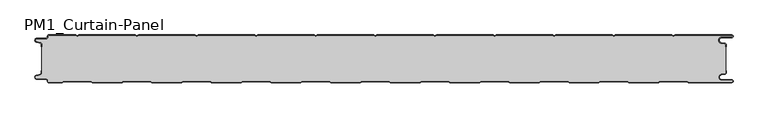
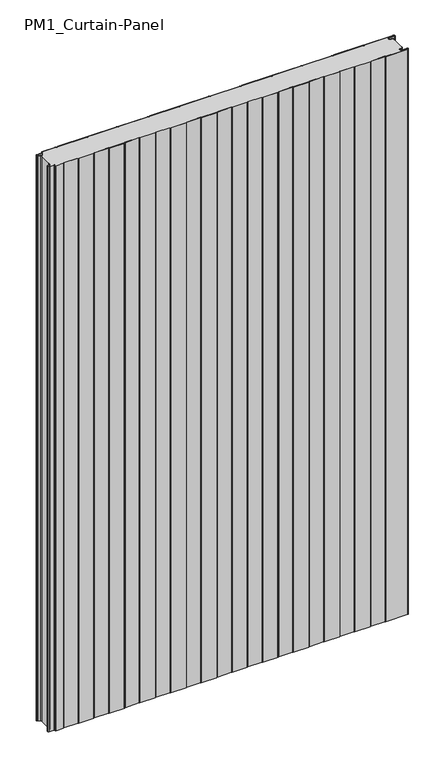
"""IFC4 building model written with IfcOpenShell, lengths in millimetres: plate geometry, PM1_Curtain-Panel : ACH_PM1_Stone-wool-Panel_80M."""

from ifc_helpers import new_model, si_unit, point, frame_2d, origin, origin_with_axes, place, context, project, spatial, polyline, circle_curve, trimmed, segment, composite_curve, outline, extrude, source, transform, mapped, element, save


def pm1_curtain_panel_8cfa1c77(model_context):
    return source(origin(), model_context, "Body", "SweptSolid", [
        extrude(outline(composite_curve([segment(trimmed(circle_curve(frame_2d((-577.0, -15.878557)), 2.0), [point((-575.0, -15.878557))], [point((-576.5500978, -13.9298169))], True, "CARTESIAN"), True, "CONTINUOUS"), segment(polyline([(-576.5500978, -13.9298169), (-582.7098239, -12.507732)]), True, "CONTINUOUS"), segment(trimmed(circle_curve(frame_2d((-581.9, -9.0)), 3.6), [point((-582.7098239, -12.507732))], [point((-581.9, -5.4))], False, "CARTESIAN"), True, "CONTINUOUS"), segment(polyline([(-581.9, -5.4), (-566.4, -5.4)]), True, "CONTINUOUS"), segment(trimmed(circle_curve(frame_2d((-566.4, -3.4)), 2.0), [point((-566.4, -5.4))], [point((-564.4, -3.4))], True, "CARTESIAN"), True, "CONTINUOUS"), segment(polyline([(-564.4, -3.4), (-564.4, -2.0)]), True, "CONTINUOUS"), segment(trimmed(circle_curve(frame_2d((-562.4, -2.0)), 2.0), [point((-564.4, -2.0))], [point((-562.4, 0.0))], False, "CARTESIAN"), True, "CONTINUOUS"), segment(polyline([(-562.4, 0.0), (-517.0999995, 0.0), (-514.4, -1.5588455), (-511.7000005, 0.0), (-417.0999995, 0.0), (-414.4, -1.5588455), (-411.7000005, 0.0), (-317.0999995, 0.0), (-314.4, -1.5588455), (-311.7000005, 0.0), (-217.0999995, 0.0), (-214.4, -1.5588455), (-211.7000005, 0.0), (-117.0999995, 0.0), (-114.4, -1.5588455), (-111.7000005, 0.0), (-17.0999995, 0.0), (-14.4, -1.5588455), (-11.7000005, 0.0), (82.9000005, 0.0), (85.6, -1.5588455), (88.2999995, 0.0), (182.9000005, 0.0), (185.6, -1.5588455), (188.2999995, 0.0), (282.9000005, 0.0), (285.6, -1.5588455), (288.2999995, 0.0), (382.9000005, 0.0), (385.6, -1.5588455), (388.2999995, 0.0), (482.9000005, 0.0), (485.6, -1.5588455), (488.2999995, 0.0), (583.1, 0.0)]), True, "CONTINUOUS"), segment(trimmed(circle_curve(frame_2d((583.1, -2.5)), 2.5), [point((583.1, 0.0))], [point((583.1, -5.0))], False, "CARTESIAN"), True, "CONTINUOUS"), segment(polyline([(583.1, -5.0), (566.1, -5.0)]), True, "CONTINUOUS"), segment(trimmed(circle_curve(frame_2d((566.1, -9.0)), 4.0), [point((566.1, -5.0))], [point((565.405407, -12.939231))], True, "CARTESIAN"), True, "CONTINUOUS"), segment(polyline([(565.405407, -12.939231), (571.8514855, -14.0758491)]), True, "CONTINUOUS"), segment(trimmed(circle_curve(frame_2d((571.4, -16.6363492)), 2.6), [point((571.8514855, -14.0758491))], [point((574.0, -16.6363492))], False, "CARTESIAN"), True, "CONTINUOUS"), segment(polyline([(574.0, -16.6363492), (574.0, -20.0), (573.2, -20.0), (573.2, -16.6363492)]), True, "CONTINUOUS"), segment(trimmed(circle_curve(frame_2d((571.4, -16.6363492)), 1.8), [point((573.2, -16.6363492))], [point((571.7125669, -14.8636953))], True, "CARTESIAN"), True, "CONTINUOUS"), segment(polyline([(571.7125669, -14.8636953), (565.2664884, -13.7270772)]), True, "CONTINUOUS"), segment(trimmed(circle_curve(frame_2d((566.1, -9.0)), 4.8), [point((565.2664884, -13.7270772))], [point((566.1, -4.2))], False, "CARTESIAN"), True, "CONTINUOUS"), segment(polyline([(566.1, -4.2), (583.1, -4.2)]), True, "CONTINUOUS"), segment(trimmed(circle_curve(frame_2d((583.1, -2.5)), 1.7), [point((583.1, -4.2))], [point((583.1, -0.8))], True, "CARTESIAN"), True, "CONTINUOUS"), segment(polyline([(583.1, -0.8), (488.5143588, -0.8), (485.6, -2.482606), (482.6856412, -0.8), (388.5143588, -0.8), (385.6, -2.482606), (382.6856412, -0.8), (288.5143588, -0.8), (285.6, -2.482606), (282.6856412, -0.8), (188.5143588, -0.8), (185.6, -2.482606), (182.6856412, -0.8), (88.5143588, -0.8), (85.6, -2.482606), (82.6856412, -0.8), (-11.4856412, -0.8), (-14.4, -2.482606), (-17.3143588, -0.8), (-111.4856412, -0.8), (-114.4, -2.482606), (-117.3143588, -0.8), (-211.4856412, -0.8), (-214.4, -2.482606), (-217.3143588, -0.8), (-311.4856412, -0.8), (-314.4, -2.482606), (-317.3143588, -0.8), (-411.4856412, -0.8), (-414.4, -2.482606), (-417.3143588, -0.8), (-511.4856412, -0.8), (-514.4, -2.482606), (-517.3143588, -0.8), (-562.4, -0.8)]), True, "CONTINUOUS"), segment(trimmed(circle_curve(frame_2d((-562.4, -2.0)), 1.2), [point((-562.4, -0.8))], [point((-563.6, -2.0))], True, "CARTESIAN"), True, "CONTINUOUS"), segment(polyline([(-563.6, -2.0), (-563.6, -3.4)]), True, "CONTINUOUS"), segment(trimmed(circle_curve(frame_2d((-566.4, -3.4)), 2.8), [point((-563.6, -3.4))], [point((-566.4, -6.2))], False, "CARTESIAN"), True, "CONTINUOUS"), segment(polyline([(-566.4, -6.2), (-581.9, -6.2)]), True, "CONTINUOUS"), segment(trimmed(circle_curve(frame_2d((-581.9, -9.0)), 2.8), [point((-581.9, -6.2))], [point((-582.529863, -11.7282362))], True, "CARTESIAN"), True, "CONTINUOUS"), segment(polyline([(-582.529863, -11.7282362), (-576.370137, -13.150321)]), True, "CONTINUOUS"), segment(trimmed(circle_curve(frame_2d((-577.0, -15.878557)), 2.8), [point((-576.370137, -13.150321))], [point((-574.2, -15.878557))], False, "CARTESIAN"), True, "CONTINUOUS"), segment(polyline([(-574.2, -15.878557), (-574.2, -20.0), (-575.0, -20.0), (-575.0, -15.878557)]), True, "CONTINUOUS")], self_intersect=False)), origin_with_axes(), (0.0, 0.0, 1.0), 1945.7507136),
        extrude(outline(composite_curve([segment(polyline([(-574.2, -64.121443), (-574.2, -15.8785573)]), True, "CONTINUOUS"), segment(trimmed(circle_curve(frame_2d((-577.0, -15.8785573)), 2.8), [point((-574.2, -15.8785573))], [point((-576.370137, -13.1503212))], True, "CARTESIAN"), True, "CONTINUOUS"), segment(polyline([(-576.370137, -13.1503212), (-582.5298631, -11.7282362)]), True, "CONTINUOUS"), segment(trimmed(circle_curve(frame_2d((-581.9, -9.0)), 2.8), [point((-582.5298631, -11.7282362))], [point((-581.9, -6.2))], False, "CARTESIAN"), True, "CONTINUOUS"), segment(polyline([(-581.9, -6.2), (-566.4000001, -6.2)]), True, "CONTINUOUS"), segment(trimmed(circle_curve(frame_2d((-566.4000001, -3.4)), 2.8), [point((-566.4000001, -6.2))], [point((-563.6000001, -3.4))], True, "CARTESIAN"), True, "CONTINUOUS"), segment(polyline([(-563.6000001, -3.4), (-563.6000001, -2.0)]), True, "CONTINUOUS"), segment(trimmed(circle_curve(frame_2d((-562.4000001, -2.0)), 1.2), [point((-563.6000001, -2.0))], [point((-562.4000001, -0.8))], False, "CARTESIAN"), True, "CONTINUOUS"), segment(polyline([(-562.4000001, -0.8), (-517.3143589, -0.8), (-514.4000001, -2.482606), (-511.4856412, -0.8), (-417.3143589, -0.8), (-414.4000001, -2.482606), (-411.4856412, -0.8), (-317.3143589, -0.8), (-314.4000001, -2.482606), (-311.4856412, -0.8), (-217.3143589, -0.8), (-214.4000001, -2.482606), (-211.4856412, -0.8), (-117.3143589, -0.8), (-114.4000001, -2.482606), (-111.4856412, -0.8), (-17.3143589, -0.8), (-14.4000001, -2.482606), (-11.4856412, -0.8), (82.6856411, -0.8), (85.5999999, -2.482606), (88.5143588, -0.8), (182.6856411, -0.8), (185.5999999, -2.482606), (188.5143588, -0.8), (282.6856411, -0.8), (285.5999999, -2.482606), (288.5143588, -0.8), (382.6856411, -0.8), (385.5999999, -2.482606), (388.5143588, -0.8), (482.6856411, -0.8), (485.6, -2.482606), (488.5143588, -0.8), (583.1, -0.8)]), True, "CONTINUOUS"), segment(trimmed(circle_curve(frame_2d((583.1, -2.5)), 1.7), [point((583.1, -0.8))], [point((583.1, -4.2))], False, "CARTESIAN"), True, "CONTINUOUS"), segment(polyline([(583.1, -4.2), (566.1, -4.2)]), True, "CONTINUOUS"), segment(trimmed(circle_curve(frame_2d((566.1, -9.0)), 4.8), [point((566.1, -4.2))], [point((565.2664883, -13.7270771))], True, "CARTESIAN"), True, "CONTINUOUS"), segment(polyline([(565.2664883, -13.7270771), (571.7125668, -14.8636953)]), True, "CONTINUOUS"), segment(trimmed(circle_curve(frame_2d((571.4, -16.6363492)), 1.8), [point((571.7125668, -14.8636953))], [point((573.2, -16.6363492))], False, "CARTESIAN"), True, "CONTINUOUS"), segment(polyline([(573.2, -16.6363492), (573.2, -63.363652)]), True, "CONTINUOUS"), segment(trimmed(circle_curve(frame_2d((571.4, -63.363652)), 1.8), [point((573.2, -63.363652))], [point((571.7125666, -65.1363059))], False, "CARTESIAN"), True, "CONTINUOUS"), segment(polyline([(571.7125666, -65.1363059), (565.266489, -66.272923)]), True, "CONTINUOUS"), segment(trimmed(circle_curve(frame_2d((566.1, -71.0000002)), 4.7999999), [point((565.266489, -66.272923))], [point((566.1, -75.8000001))], True, "CARTESIAN"), True, "CONTINUOUS"), segment(polyline([(566.1, -75.8000001), (583.1, -75.8000001)]), True, "CONTINUOUS"), segment(trimmed(circle_curve(frame_2d((583.1, -77.5)), 1.7), [point((583.1, -75.8000001))], [point((583.1, -79.2))], False, "CARTESIAN"), True, "CONTINUOUS"), segment(polyline([(583.1, -79.2), (510.8105122, -79.2), (508.2124346, -77.7), (462.9837184, -77.7), (460.3856408, -79.2), (410.8105122, -79.2), (408.2124346, -77.7), (362.9837184, -77.7), (360.3856408, -79.2), (310.8105122, -79.2), (308.2124346, -77.7), (262.9837184, -77.7), (260.3856408, -79.2), (210.8105122, -79.2), (208.2124346, -77.7), (162.9837184, -77.7), (160.3856408, -79.2), (110.8105122, -79.2), (108.2124346, -77.7), (62.9837184, -77.7), (60.3856408, -79.2), (10.8105122, -79.2), (8.2124346, -77.7), (-37.0162816, -77.7), (-39.6143592, -79.2), (-89.1894878, -79.2), (-91.7875654, -77.7), (-137.0162816, -77.7), (-139.6143592, -79.2), (-189.1894878, -79.2), (-191.7875654, -77.7), (-237.0162816, -77.7), (-239.6143592, -79.2), (-289.1894878, -79.2), (-291.7875654, -77.7), (-337.0162816, -77.7), (-339.6143592, -79.2), (-389.1894878, -79.2), (-391.7875654, -77.7), (-437.0162816, -77.7), (-439.6143592, -79.2), (-489.1894878, -79.2), (-491.7875654, -77.7), (-537.0162816, -77.7), (-539.6143592, -79.2), (-562.4, -79.2)]), True, "CONTINUOUS"), segment(trimmed(circle_curve(frame_2d((-562.4, -78.0)), 1.2), [point((-562.4, -79.2))], [point((-563.6, -78.0))], False, "CARTESIAN"), True, "CONTINUOUS"), segment(polyline([(-563.6, -78.0), (-563.6, -76.5999998)]), True, "CONTINUOUS"), segment(trimmed(circle_curve(frame_2d((-566.4, -76.5999998)), 2.8), [point((-563.6, -76.5999998))], [point((-566.4, -73.7999998))], True, "CARTESIAN"), True, "CONTINUOUS"), segment(polyline([(-566.4, -73.7999998), (-581.9, -73.7999998)]), True, "CONTINUOUS"), segment(trimmed(circle_curve(frame_2d((-581.9, -71.0)), 2.7999998), [point((-581.9, -73.7999998))], [point((-582.529863, -68.271764))], False, "CARTESIAN"), True, "CONTINUOUS"), segment(polyline([(-582.529863, -68.271764), (-576.370137, -66.8496792)]), True, "CONTINUOUS"), segment(trimmed(circle_curve(frame_2d((-577.0, -64.121443)), 2.8), [point((-576.370137, -66.8496792))], [point((-574.2, -64.121443))], True, "CARTESIAN"), True, "CONTINUOUS")], self_intersect=False)), origin_with_axes(), (0.0, 0.0, 1.0), 1945.7507136),
        extrude(outline(composite_curve([segment(trimmed(circle_curve(frame_2d((-562.4, -78.0)), 2.0), [point((-562.4, -80.0))], [point((-564.4, -78.0))], False, "CARTESIAN"), True, "CONTINUOUS"), segment(polyline([(-564.4, -78.0), (-564.4, -76.6)]), True, "CONTINUOUS"), segment(trimmed(circle_curve(frame_2d((-566.4, -76.6)), 2.0), [point((-564.4, -76.6))], [point((-566.4, -74.6))], True, "CARTESIAN"), True, "CONTINUOUS"), segment(polyline([(-566.4, -74.6), (-581.9, -74.6)]), True, "CONTINUOUS"), segment(trimmed(circle_curve(frame_2d((-581.9, -71.0)), 3.6), [point((-581.9, -74.6))], [point((-582.7098239, -67.4922678))], False, "CARTESIAN"), True, "CONTINUOUS"), segment(polyline([(-582.7098239, -67.4922678), (-576.5500979, -66.070183)]), True, "CONTINUOUS"), segment(trimmed(circle_curve(frame_2d((-577.0, -64.121443)), 2.0), [point((-576.5500979, -66.070183))], [point((-575.0, -64.121443))], True, "CARTESIAN"), True, "CONTINUOUS"), segment(polyline([(-575.0, -64.121443), (-575.0, -60.0), (-574.2, -60.0), (-574.2, -64.121443)]), True, "CONTINUOUS"), segment(trimmed(circle_curve(frame_2d((-577.0, -64.121443)), 2.8), [point((-574.2, -64.121443))], [point((-576.370137, -66.8496792))], False, "CARTESIAN"), True, "CONTINUOUS"), segment(polyline([(-576.370137, -66.8496792), (-582.529863, -68.271764)]), True, "CONTINUOUS"), segment(trimmed(circle_curve(frame_2d((-581.9, -71.0)), 2.8), [point((-582.529863, -68.271764))], [point((-581.9, -73.8))], True, "CARTESIAN"), True, "CONTINUOUS"), segment(polyline([(-581.9, -73.8), (-566.4, -73.8)]), True, "CONTINUOUS"), segment(trimmed(circle_curve(frame_2d((-566.4, -76.6)), 2.8), [point((-566.4, -73.8))], [point((-563.6, -76.6))], False, "CARTESIAN"), True, "CONTINUOUS"), segment(polyline([(-563.6, -76.6), (-563.6, -78.0)]), True, "CONTINUOUS"), segment(trimmed(circle_curve(frame_2d((-562.4, -78.0)), 1.2), [point((-563.6, -78.0))], [point((-562.4, -79.2))], True, "CARTESIAN"), True, "CONTINUOUS"), segment(polyline([(-562.4, -79.2), (-539.6143592, -79.2), (-537.0162816, -77.7), (-491.7875654, -77.7), (-489.1894878, -79.2), (-439.6143592, -79.2), (-437.0162816, -77.7), (-391.7875654, -77.7), (-389.1894878, -79.2), (-339.6143592, -79.2), (-337.0162816, -77.7), (-291.7875654, -77.7), (-289.1894878, -79.2), (-239.6143592, -79.2), (-237.0162816, -77.7), (-191.7875654, -77.7), (-189.1894878, -79.2), (-139.6143592, -79.2), (-137.0162816, -77.7), (-91.7875654, -77.7), (-89.1894878, -79.2), (-39.6143592, -79.2), (-37.0162816, -77.7), (8.2124346, -77.7), (10.8105122, -79.2), (60.3856408, -79.2), (62.9837184, -77.7), (108.2124346, -77.7), (110.8105122, -79.2), (160.3856408, -79.2), (162.9837184, -77.7), (208.2124346, -77.7), (210.8105122, -79.2), (260.3856408, -79.2), (262.9837184, -77.7), (308.2124346, -77.7), (310.8105122, -79.2), (360.3856408, -79.2), (362.9837184, -77.7), (408.2124346, -77.7), (410.8105122, -79.2), (460.3856408, -79.2), (462.9837184, -77.7), (508.2124346, -77.7), (510.8105122, -79.2), (583.1, -79.2)]), True, "CONTINUOUS"), segment(trimmed(circle_curve(frame_2d((583.1, -77.5)), 1.7), [point((583.1, -79.2))], [point((583.1, -75.8))], True, "CARTESIAN"), True, "CONTINUOUS"), segment(polyline([(583.1, -75.8), (566.1, -75.8)]), True, "CONTINUOUS"), segment(trimmed(circle_curve(frame_2d((566.1, -71.0)), 4.8), [point((566.1, -75.8))], [point((565.266489, -66.2729227))], False, "CARTESIAN"), True, "CONTINUOUS"), segment(polyline([(565.266489, -66.2729227), (571.7125666, -65.1363058)]), True, "CONTINUOUS"), segment(trimmed(circle_curve(frame_2d((571.4, -63.363652)), 1.8), [point((571.7125666, -65.1363058))], [point((573.2, -63.363652))], True, "CARTESIAN"), True, "CONTINUOUS"), segment(polyline([(573.2, -63.363652), (573.2, -60.0), (574.0, -60.0), (574.0, -63.363652)]), True, "CONTINUOUS"), segment(trimmed(circle_curve(frame_2d((571.4, -63.363652)), 2.6), [point((574.0, -63.363652))], [point((571.8514851, -65.9241522))], False, "CARTESIAN"), True, "CONTINUOUS"), segment(polyline([(571.8514851, -65.9241522), (565.4054075, -67.0607691)]), True, "CONTINUOUS"), segment(trimmed(circle_curve(frame_2d((566.1, -71.0)), 4.0), [point((565.4054075, -67.0607691))], [point((566.1, -75.0))], True, "CARTESIAN"), True, "CONTINUOUS"), segment(polyline([(566.1, -75.0), (583.1, -75.0)]), True, "CONTINUOUS"), segment(trimmed(circle_curve(frame_2d((583.1, -77.5)), 2.5), [point((583.1, -75.0))], [point((583.1, -80.0))], False, "CARTESIAN"), True, "CONTINUOUS"), segment(polyline([(583.1, -80.0), (510.5961529, -80.0), (507.9980753, -78.5), (463.1980777, -78.5), (460.6000001, -80.0), (410.5961529, -80.0), (407.9980753, -78.5), (363.1980777, -78.5), (360.6000001, -80.0), (310.5961529, -80.0), (307.9980753, -78.5), (263.1980777, -78.5), (260.6000001, -80.0), (210.5961529, -80.0), (207.9980753, -78.5), (163.1980777, -78.5), (160.6000001, -80.0), (110.5961529, -80.0), (107.9980753, -78.5), (63.1980777, -78.5), (60.6000001, -80.0), (10.5961529, -80.0), (7.9980753, -78.5), (-36.8019223, -78.5), (-39.3999999, -80.0), (-89.4038471, -80.0), (-92.0019247, -78.5), (-136.8019223, -78.5), (-139.3999999, -80.0), (-189.4038471, -80.0), (-192.0019247, -78.5), (-236.8019223, -78.5), (-239.3999999, -80.0), (-289.4038471, -80.0), (-292.0019247, -78.5), (-336.8019223, -78.5), (-339.3999999, -80.0), (-389.4038471, -80.0), (-392.0019247, -78.5), (-436.8019223, -78.5), (-439.3999999, -80.0), (-489.4038471, -80.0), (-492.0019247, -78.5), (-536.8019223, -78.5), (-539.3999999, -80.0), (-562.4, -80.0)]), True, "CONTINUOUS")], self_intersect=False)), origin_with_axes(), (0.0, 0.0, 1.0), 1945.7507136),
    ])


if __name__ == "__main__":
    model = new_model("IFC4")
    model_context = context("Model", 3, world=origin())
    ifc_project = project(units=[si_unit("LENGTHUNIT", "METRE", prefix="MILLI")], contexts=[model_context])
    site = spatial("IfcSite", under=ifc_project)
    building = spatial("IfcBuilding", under=site)
    placement = place(None, origin())
    pm1_curtain_panel_shape = pm1_curtain_panel_8cfa1c77(model_context)
    element("IfcPlate", 1, ObjectType="PM1_Curtain-Panel : ACH_PM1_Stone-wool-Panel_80M", at=placement, inside=building, context=model_context, shape_type="MappedRepresentation", body=[
        mapped(pm1_curtain_panel_shape, transform((0.0, 0.0, 0.0), x_axis=(1.0, 0.0, 0.0), y_axis=(0.0, 1.0, 0.0), z_axis=(0.0, 0.0, 1.0))),
    ])
    save(model, "model.ifc")
